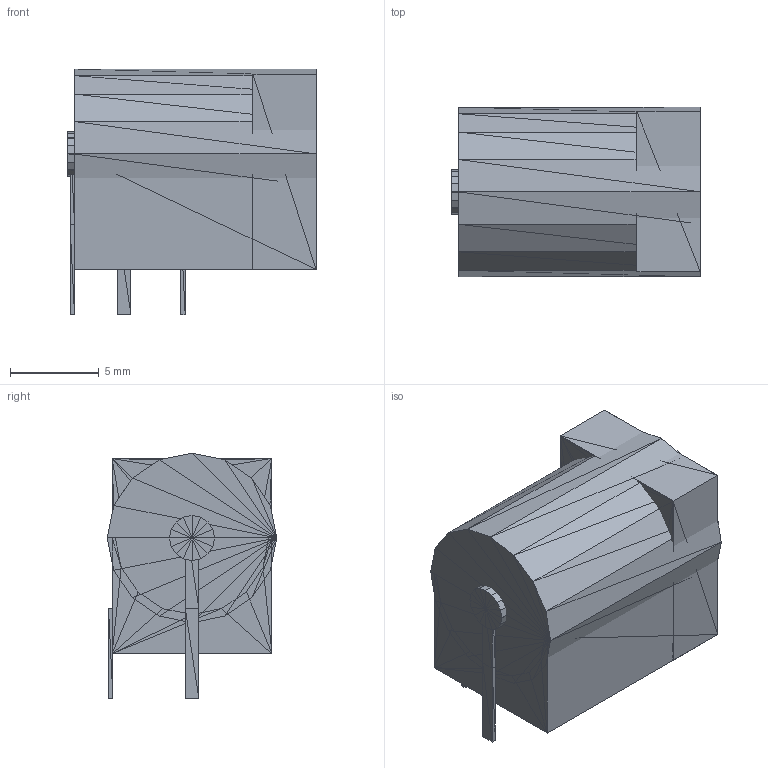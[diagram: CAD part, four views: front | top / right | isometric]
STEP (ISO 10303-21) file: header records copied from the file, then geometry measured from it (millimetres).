
FILE_DESCRIPTION(('HOOPS Exchange Step'),'2;1');
FILE_NAME('***.stp');
FILE_SCHEMA( ('AP242_MANAGED_MODEL_BASED_3D_ENGINEERING_MIM_LF {1 0 10303 442 1 1 4 }') );
Length unit declared in the file: inch
Products named in the file (11): BJK2.5MM_2; BJK2.5MM_3; BJK2.5MM_4; BJK2.5MM_5; BJK2.5MM_6; BJK2.5MM_7; BJK2.5MM_8; BJK2.5MM_9; BJK2.5MM_10; BJK2.5MM_11; BJK2.5MM
Assembly tree (10 placements, depth 2):
  BJK2.5MM
    BJK2.5MM_2
    BJK2.5MM_3
    BJK2.5MM_4
    BJK2.5MM_5
    BJK2.5MM_6
    BJK2.5MM_7
    BJK2.5MM_8
    BJK2.5MM_9
    BJK2.5MM_10
    BJK2.5MM_11
Bounding box: 13.97 x 9.53 x 13.81 mm (x, y, z)
Volume: 1117.8 mm3; surface area: 2423.4 mm2
Topology: 9 solids, 10 shells, 1132 faces, 1722 edges, 594 vertices
Faces by surface type: plane 1132
Entity records: 22712 total; most frequent: DIRECTION 4030, CARTESIAN_POINT 3470, ORIENTED_EDGE 3396, VECTOR 1722, LINE 1722, EDGE_CURVE 1722, AXIS2_PLACEMENT_3D 1154, PLANE 1132
